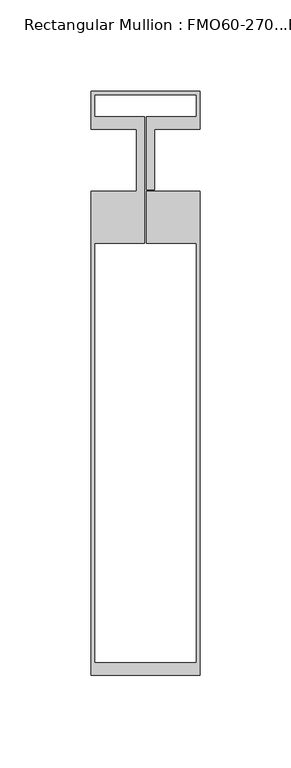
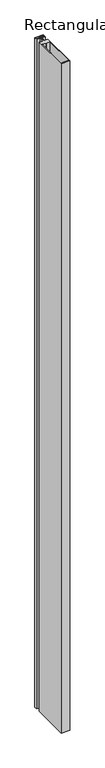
"""IFC4 building model written with IfcOpenShell, lengths in millimetres: member geometry, Rectangular Mullion : FMO60-270...FM60-17."""

import ifcopenshell
import ifcopenshell.guid

model = None  # the IFC model being written
_history = None  # IfcOwnerHistory: only IFC2X3 demands one
_inside = {}  # id of a spatial element -> (the spatial element, [elements in it])
_under = {}  # id of a project, library or spatial element -> (it, [spatial elements below it])
_declared = {}  # id of a project -> (the project, [libraries it declares])
_typed = {}  # id of a type object -> (the type object, [elements of that type])
_made_of = {}  # id of a material, layer set ... -> (it, [elements and type objects made of it])


def new_model(schema):
    """Start an empty IFC model of exactly this schema.

    Asked for "IFC4X3", IfcOpenShell would pick the latest addendum, in which some entities
    have other attributes; the version numbers below select the first issue.
    IFC2X3 requires an IfcOwnerHistory on every rooted entity: one is made here for all.
    """
    global model, _history
    if schema == "IFC4X3":
        model = ifcopenshell.file(schema_version=(4, 3, 0, 0))
    else:
        model = ifcopenshell.file(schema=schema)
    _inside.clear()
    _under.clear()
    _declared.clear()
    _typed.clear()
    _made_of.clear()
    _history = None
    if model.schema == "IFC2X3":
        org = make("IfcOrganization", Name="unknown")
        user = make(
            "IfcPersonAndOrganization",
            ThePerson=make("IfcPerson", FamilyName="unknown"),
            TheOrganization=org,
        )
        app = make(
            "IfcApplication",
            ApplicationDeveloper=org,
            Version="unknown",
            ApplicationFullName="unknown",
            ApplicationIdentifier="unknown",
        )
        _history = make(
            "IfcOwnerHistory",
            OwningUser=user,
            OwningApplication=app,
            ChangeAction="ADDED",
            CreationDate=0,
        )
    return model


def make(cls, **values):
    """One entity of the class cls with the attributes given. An attribute that is None is left unset."""
    return model.create_entity(
        cls, **{name: value for name, value in values.items() if value is not None}
    )


def rooted(cls, **values):
    """An entity with a GlobalId (a new one), such as an element, a storey or a relation."""
    return make(cls, GlobalId=ifcopenshell.guid.new(), OwnerHistory=_history, **values)


def si_unit(unit_type, name, prefix=None):
    """IfcSIUnit, for example si_unit("LENGTHUNIT", "METRE", prefix="MILLI")."""
    return make("IfcSIUnit", UnitType=unit_type, Prefix=prefix, Name=name)


def assignment(units):
    """IfcUnitAssignment: the units of a project."""
    return None if units is None else make("IfcUnitAssignment", Units=units)


def point(xyz):
    """IfcCartesianPoint."""
    return None if xyz is None else make("IfcCartesianPoint", Coordinates=xyz)


def direction(xyz):
    """IfcDirection."""
    return None if xyz is None else make("IfcDirection", DirectionRatios=xyz)


def frame(location, z_axis=None, x_axis=None):
    """IfcAxis2Placement3D, a coordinate frame: its origin and axes. An axis left out is left unset."""
    return make(
        "IfcAxis2Placement3D",
        Location=point(location),
        Axis=direction(z_axis),
        RefDirection=direction(x_axis),
    )


def frame_2d(location, x_axis=None):
    """IfcAxis2Placement2D, a coordinate frame in the plane: its origin and x axis."""
    return make(
        "IfcAxis2Placement2D", Location=point(location), RefDirection=direction(x_axis)
    )


def origin():
    """The frame at (0, 0, 0) with its axes left unset."""
    return frame((0.0, 0.0, 0.0))


def place(relative_to, where):
    """IfcLocalPlacement: puts the frame where relative to a parent placement (None: the world)."""
    return make(
        "IfcLocalPlacement", PlacementRelTo=relative_to, RelativePlacement=where
    )


def context(
    kind, dimensions, precision=None, world=None, true_north=None, identifier=None
):
    """IfcGeometricRepresentationContext, for example the 3D "Model" context."""
    return make(
        "IfcGeometricRepresentationContext",
        ContextIdentifier=identifier,
        ContextType=kind,
        CoordinateSpaceDimension=dimensions,
        Precision=precision,
        WorldCoordinateSystem=world,
        TrueNorth=true_north,
    )


def project(units=None, contexts=None):
    """IfcProject with its units and contexts."""
    return rooted(
        "IfcProject",
        Name="project",
        RepresentationContexts=contexts,
        UnitsInContext=assignment(units),
    )


def spatial(cls, under=None, at=None, **own):
    """A site, building, storey or space (cls), placed at a placement, below another one or the project."""
    s = rooted(cls, ObjectPlacement=at, **own)
    if under is not None:
        _under.setdefault(under.id(), (under, []))[1].append(s)
    return s


def polyline(points):
    """IfcPolyline through the points."""
    return make("IfcPolyline", Points=[point(p) for p in points])


def circle_curve(where, radius):
    """IfcCircle in the frame where."""
    return make("IfcCircle", Position=where, Radius=radius)


def trimmed(basis, trim1, trim2, sense, master):
    """IfcTrimmedCurve: the piece of a basis curve between two trims."""
    return make(
        "IfcTrimmedCurve",
        BasisCurve=basis,
        Trim1=trim1,
        Trim2=trim2,
        SenseAgreement=sense,
        MasterRepresentation=master,
    )


def segment(curve, same_sense, transition):
    """IfcCompositeCurveSegment."""
    return make(
        "IfcCompositeCurveSegment",
        Transition=transition,
        SameSense=same_sense,
        ParentCurve=curve,
    )


def composite_curve(segments, self_intersect=None):
    """IfcCompositeCurve: segments joined end to end."""
    return make("IfcCompositeCurve", Segments=segments, SelfIntersect=self_intersect)


def outline(outer, holes=None, kind="AREA"):
    """IfcArbitraryClosedProfileDef: a profile drawn as a closed curve; with holes, ...WithVoids."""
    if holes is None:
        return make("IfcArbitraryClosedProfileDef", ProfileType=kind, OuterCurve=outer)
    return make(
        "IfcArbitraryProfileDefWithVoids",
        ProfileType=kind,
        OuterCurve=outer,
        InnerCurves=holes,
    )


def extrude(swept, where, along, depth):
    """IfcExtrudedAreaSolid: the profile swept, set in the frame where, extruded along a direction by depth."""
    return make(
        "IfcExtrudedAreaSolid",
        SweptArea=swept,
        Position=where,
        ExtrudedDirection=direction(along),
        Depth=depth,
    )


def shape(context_of_items, identifier, shape_type, items):
    """IfcShapeRepresentation: the items that make up one representation, for example the "Body"."""
    return make(
        "IfcShapeRepresentation",
        ContextOfItems=context_of_items,
        RepresentationIdentifier=identifier,
        RepresentationType=shape_type,
        Items=items,
    )


def source(mapping_origin, context_of_items, identifier, shape_type, items):
    """IfcRepresentationMap: a shape defined once, which mapped items show again and again."""
    return make(
        "IfcRepresentationMap",
        MappingOrigin=mapping_origin,
        MappedRepresentation=shape(context_of_items, identifier, shape_type, items),
    )


def transform(
    local_origin,
    x_axis=None,
    y_axis=None,
    z_axis=None,
    scale=None,
    scale2=None,
    scale3=None,
    uniform=True,
):
    """IfcCartesianTransformationOperator3D, or its non-uniform kind. x_axis, y_axis, z_axis: its Axis1, 2, 3."""
    if uniform:
        return make(
            "IfcCartesianTransformationOperator3D",
            Axis1=direction(x_axis),
            Axis2=direction(y_axis),
            LocalOrigin=point(local_origin),
            Scale=scale,
            Axis3=direction(z_axis),
        )
    return make(
        "IfcCartesianTransformationOperator3DnonUniform",
        Axis1=direction(x_axis),
        Axis2=direction(y_axis),
        LocalOrigin=point(local_origin),
        Scale=scale,
        Axis3=direction(z_axis),
        Scale2=scale2,
        Scale3=scale3,
    )


def mapped(mapping_source, mapping_target):
    """IfcMappedItem: shows the shape of a source again, moved by a transform."""
    return make(
        "IfcMappedItem", MappingSource=mapping_source, MappingTarget=mapping_target
    )


def made_of(thing, what):
    """Note that an element or type object is made of a material, layer set ...; save() writes the relation."""
    if what is not None:
        _made_of.setdefault(what.id(), (what, []))[1].append(thing)
    return thing


def element(
    cls,
    number,
    at=None,
    inside=None,
    cuts=None,
    type_object=None,
    material=None,
    context=None,
    identifier="Body",
    shape_type=None,
    held_by="IfcProductDefinitionShape",
    body=None,
    shapes=None,
    **own,
):
    """One element of the class cls, such as IfcWall. Its Tag is "e" and its number.

    at: its placement. inside: the storey or other place that contains it. cuts: it is an
    opening in that element (IfcRelVoidsElement). A single representation is given by context,
    identifier, shape_type and body (its items); several are given by shapes. held_by: the class
    of the entity that holds the representations. save() writes the other relations.
    """
    e = rooted(cls, Tag="e%d" % number, ObjectPlacement=at, **own)
    if body is not None:
        shapes = [shape(context, identifier, shape_type, body)]
    if shapes is not None:
        e.Representation = make(held_by, Representations=shapes)
    if inside is not None:
        _inside.setdefault(inside.id(), (inside, []))[1].append(e)
    if cuts is not None:
        rooted(
            "IfcRelVoidsElement", RelatingBuildingElement=cuts, RelatedOpeningElement=e
        )
    if type_object is not None:
        _typed.setdefault(type_object.id(), (type_object, []))[1].append(e)
    return made_of(e, material)


def aggregate(whole, parts):
    """IfcRelAggregates: a whole, such as a stair, and the parts it consists of."""
    return rooted("IfcRelAggregates", RelatingObject=whole, RelatedObjects=parts)


def save(model, path):
    """Write the relations noted so far, then the file.

    IfcRelAggregates (storeys below a building ...), IfcRelContainedInSpatialStructure (elements
    in a storey), IfcRelDefinesByType, IfcRelAssociatesMaterial and IfcRelDeclares: one each for
    every whole, place, type object, material and project.
    """
    for whole, parts in _under.values():
        aggregate(whole, parts)
    for where, things in _inside.values():
        rooted(
            "IfcRelContainedInSpatialStructure",
            RelatedElements=things,
            RelatingStructure=where,
        )
    for kind, things in _typed.values():
        rooted("IfcRelDefinesByType", RelatedObjects=things, RelatingType=kind)
    for what, things in _made_of.values():
        rooted("IfcRelAssociatesMaterial", RelatedObjects=things, RelatingMaterial=what)
    for by, libraries in _declared.values():
        rooted("IfcRelDeclares", RelatingContext=by, RelatedDefinitions=libraries)
    model.write(path)


def rectangular_mullion_fmo60_270_fm60_17_746ea6a6(model_context):
    return source(origin(), model_context, "Body", "SweptSolid", [
        extrude(outline(composite_curve([segment(polyline([(-29.5, 38.0025783), (29.5, 38.0025783)]), True, "CONTINUOUS"), segment(trimmed(circle_curve(frame_2d((29.5, 37.5025783)), 0.5), [point((29.5, 38.0025783))], [point((30.0, 37.5025783))], False, "CARTESIAN"), True, "CONTINUOUS"), segment(polyline([(30.0, 37.5025783), (30.0, 17.0), (5.0, 17.0), (5.0, -16.2), (0.5, -16.2), (0.5, 23.8476589), (28.0000412, 23.8476589), (28.0000412, 36.0025783), (-28.0000412, 36.0025783), (-28.0000412, 23.8476589), (-0.5, 23.8476589), (-0.5, -45.5034642), (-28.0, -45.5034642), (-28.0, -276.0034417), (28.0, -276.0034417), (28.0, -45.5034642), (0.5, -45.5034642), (0.5, -17.0), (30.0, -17.0), (30.0, -283.009342), (-30.0, -283.009342), (-30.0, -17.0), (-5.0, -17.0), (-5.0, 17.0), (-30.0, 17.0), (-30.0, 37.5025783)]), True, "CONTINUOUS"), segment(trimmed(circle_curve(frame_2d((-29.5, 37.5025783)), 0.5), [point((-30.0, 37.5025783))], [point((-29.5, 38.0025783))], False, "CARTESIAN"), True, "CONTINUOUS")], self_intersect=False)), frame((0.0, 0.0, -5000.0), z_axis=(0.0, 0.0, 1.0), x_axis=(1.0, 0.0, 0.0)), (0.0, 0.0, 1.0), 5000.0),
    ])


if __name__ == "__main__":
    model = new_model("IFC4")
    model_context = context("Model", 3, world=origin())
    ifc_project = project(units=[si_unit("LENGTHUNIT", "METRE", prefix="MILLI")], contexts=[model_context])
    site = spatial("IfcSite", under=ifc_project)
    building = spatial("IfcBuilding", under=site)
    placement = place(None, origin())
    rectangular_mullion_fmo60_270_fm60_17_shape = rectangular_mullion_fmo60_270_fm60_17_746ea6a6(model_context)
    element("IfcMember", 1, ObjectType="Rectangular Mullion : FMO60-270...FM60-17", at=placement, inside=building, context=model_context, shape_type="MappedRepresentation", body=[
        mapped(rectangular_mullion_fmo60_270_fm60_17_shape, transform((0.0, 0.0, 0.0), x_axis=(1.0, 0.0, 0.0), y_axis=(0.0, 1.0, 0.0), z_axis=(0.0, 0.0, 1.0))),
    ])
    save(model, "model.ifc")
